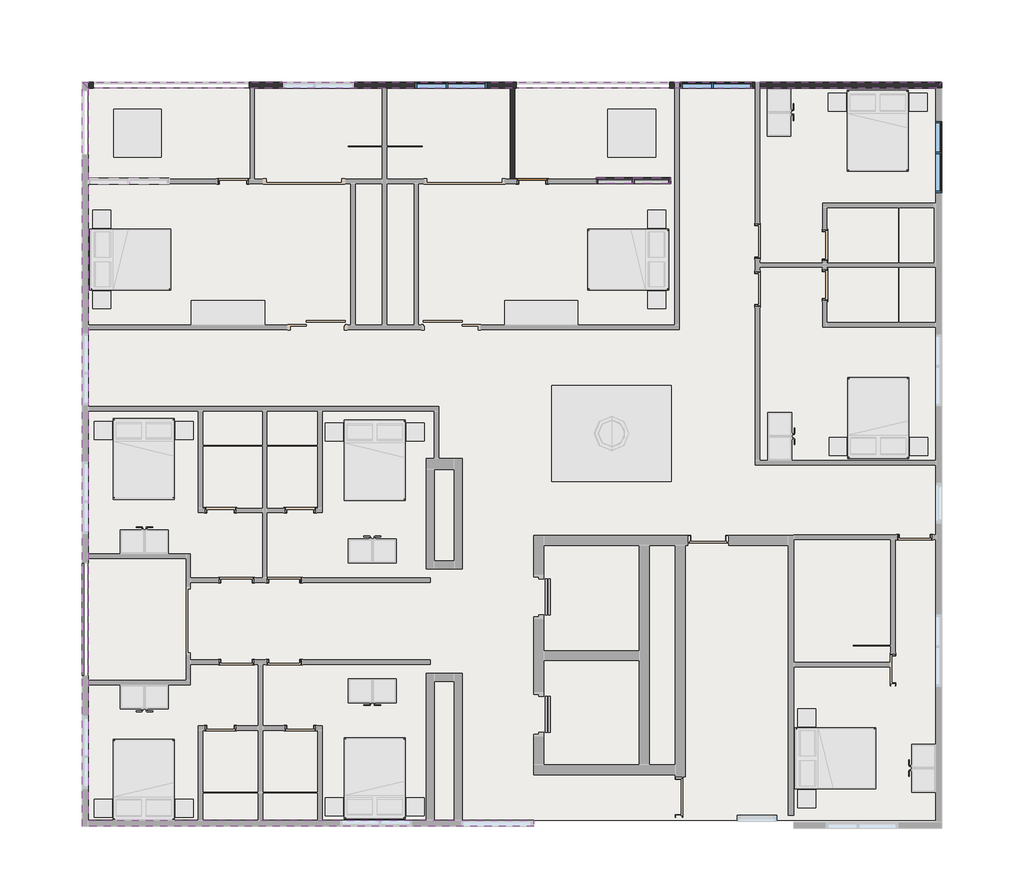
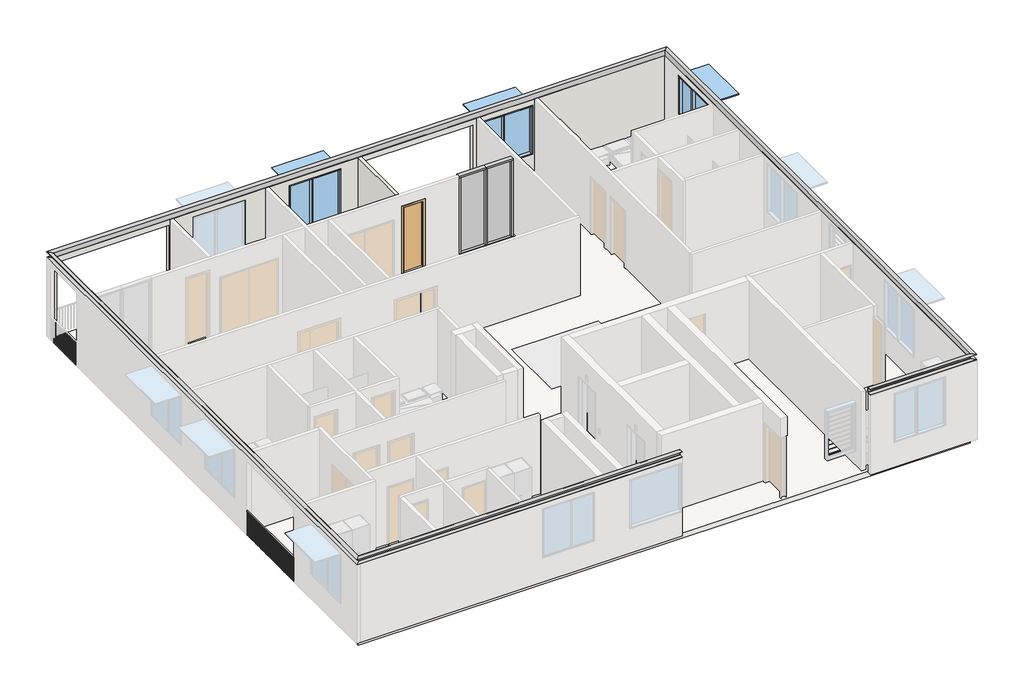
# One storey, part 3 of 4: 7 members, 3 windows, 2 plates, 2 proxies, 2 walls, 1 door, 1 railing, 1 slab.
"""IFC4 building model written with IfcOpenShell, lengths in millimetres."""

from ifc_helpers import new_model, si_unit, point, frame, frame_2d, origin, place, context, project, spatial, polyline, circle_curve, ellipse_curve, trimmed, segment, composite_curve, outline, extrude, faceted_brep, transform, mapped, element, save
from ifc_brep_helpers import plane_surface, revolved_surface, advanced_brep
from components import swing_metal_frame_single_dor1_05198c53, rectangular_mullion_50_x_150mm_32aaa733, rectangular_mullion_50_x_150mm_d11e3bb4, rectangular_mullion_50_x_150mm_39ecd5a2, system_panel_concept_glazed_bce8431f, window_bottom_hung_window_bottom_hung_09912109

model = new_model("IFC4")

# Units and contexts
model_context = context("Model", 3, world=origin())
ifc_project = project(units=[si_unit("LENGTHUNIT", "METRE", prefix="MILLI")], contexts=[model_context])

# Site, building, storey
site = spatial("IfcSite", under=ifc_project)
building = spatial("IfcBuilding", under=site)
storey = spatial("IfcBuildingStorey", under=building, Name="8階", Elevation=51600.0)

# Proxies
placement = place(None, origin())
element("IfcBuildingElementProxy", 1, Name="Slab Edge_PFC'", ObjectType="Slab Edge_PFC'", at=placement, inside=storey, context=model_context, shape_type="AdvancedBrep", body=[
    advanced_brep(
    [(2519.6057353, 18560.0, 54700.0), (2519.6057353, 18560.0, 54500.0), (2369.6057353, 18710.0, 54500.0), (2369.6057353, 18710.0, 54512.0), (2501.6057353, 18578.0, 54512.0), (2513.6057353, 18566.0, 54524.0), (2513.6057353, 18566.0, 54676.0), (2501.6057353, 18578.0, 54688.0), (2369.6057353, 18710.0, 54688.0), (2369.6057353, 18710.0, 54700.0), (2519.6057353, 189.0898177, 54700.0), (2519.6057353, 189.0898177, 54500.0), (2369.6057353, 39.0898177, 54500.0), (2369.6057353, 39.0898177, 54512.0), (2501.6057353, 171.0898177, 54512.0), (2513.6057353, 183.0898177, 54524.0), (2513.6057353, 183.0898177, 54676.0), (2501.6057353, 171.0898177, 54688.0), (2369.6057353, 39.0898177, 54688.0), (2369.6057353, 39.0898177, 54700.0), (13694.6062665, 189.0898177, 54500.0), (13694.6062665, 189.0898177, 54700.0), (13694.6062665, 39.0898177, 54700.0), (13694.6062665, 39.0898177, 54688.0), (13694.6062665, 171.0898177, 54688.0), (13694.6062665, 183.0898177, 54676.0), (13694.6062665, 183.0898177, 54524.0), (13694.6062665, 171.0898177, 54512.0), (13694.6062665, 39.0898177, 54512.0), (13694.6062665, 39.0898177, 54500.0)],
    [
        (0, 1),
        (1, 2),
        (2, 3),
        (3, 4),
        (4, 5, ellipse_curve(frame((2501.6057353, 18578.0, 54524.0), z_axis=(-0.7071067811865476, -0.7071067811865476, 0.0), x_axis=(0.7071067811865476, -0.7071067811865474, 0.0)), 16.9705627, 12.0)),
        (5, 6),
        (6, 7, ellipse_curve(frame((2501.6057353, 18578.0, 54676.0), z_axis=(-0.7071067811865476, -0.7071067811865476, 0.0), x_axis=(0.7071067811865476, -0.7071067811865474, 0.0)), 16.9705627, 12.0)),
        (7, 8),
        (8, 9),
        (9, 0),
        (0, 10),
        (10, 11),
        (11, 1),
        (11, 12),
        (12, 2),
        (12, 13),
        (13, 3),
        (13, 14),
        (14, 4),
        (14, 15, ellipse_curve(frame((2501.6057353, 171.0898177, 54524.0), z_axis=(0.7071067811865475, -0.7071067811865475, 0.0), x_axis=(-0.7071067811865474, -0.7071067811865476, 0.0)), 16.9705627, 12.0)),
        (15, 5),
        (15, 16),
        (16, 6),
        (16, 17, ellipse_curve(frame((2501.6057353, 171.0898177, 54676.0), z_axis=(0.7071067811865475, -0.7071067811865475, 0.0), x_axis=(-0.7071067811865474, -0.7071067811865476, 0.0)), 16.9705627, 12.0)),
        (17, 7),
        (17, 18),
        (18, 8),
        (18, 19),
        (19, 9),
        (19, 10),
        (20, 21),
        (21, 22),
        (22, 23),
        (23, 24),
        (24, 25, circle_curve(frame((13694.6062665, 171.0898177, 54676.0), z_axis=(-1.0, 0.0, 0.0), x_axis=(0.0, -1.0, 0.0)), 12.0)),
        (25, 26),
        (26, 27, circle_curve(frame((13694.6062665, 171.0898177, 54524.0), z_axis=(-1.0, 0.0, 0.0), x_axis=(0.0, -1.0, 0.0)), 12.0)),
        (27, 28),
        (28, 29),
        (29, 20),
        (10, 21),
        (20, 11),
        (29, 12),
        (28, 13),
        (27, 14),
        (26, 15),
        (25, 16),
        (24, 17),
        (23, 18),
        (22, 19),
    ],
    [
        plane_surface(frame((2519.6057353, 18560.0, 54700.0), z_axis=(0.7071067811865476, 0.7071067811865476, 0.0), x_axis=(-0.7071067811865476, 0.7071067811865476, 0.0))),
        plane_surface(frame((2519.6057353, 18560.0, 54700.0), z_axis=(1.0, 0.0, 0.0), x_axis=(0.0, -1.0, 0.0))),
        plane_surface(frame((2519.6057353, 18560.0, 54500.0), z_axis=(0.0, 0.0, -1.0), x_axis=(0.0, -1.0, 0.0))),
        plane_surface(frame((2369.6057353, 18710.0, 54500.0), z_axis=(-1.0, 0.0, 0.0), x_axis=(0.0, -1.0, 0.0))),
        plane_surface(frame((2369.6057353, 18710.0, 54512.0), z_axis=(0.0, 0.0, 1.0), x_axis=(0.0, -1.0, 0.0))),
        revolved_surface(polyline([(2489.6057353, 159.08981773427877, 54524.0), (2489.6057353, 18589.999999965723, 54524.0)]), (2501.6057353, 18560.0, 54524.0), (0.0, -1.0, 0.0)),
        plane_surface(frame((2513.6057353, 18566.0, 54524.0), z_axis=(-1.0, 0.0, 0.0), x_axis=(0.0, -1.0, 0.0))),
        revolved_surface(polyline([(2489.6057353, 159.08981773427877, 54676.0), (2489.6057353, 18589.999999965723, 54676.0)]), (2501.6057353, 18560.0, 54676.0), (0.0, -1.0, 0.0)),
        plane_surface(frame((2501.6057353, 18578.0, 54688.0), z_axis=(0.0, 0.0, -1.0), x_axis=(0.0, -1.0, 0.0))),
        plane_surface(frame((2369.6057353, 18710.0, 54688.0), z_axis=(-1.0, 0.0, 0.0), x_axis=(0.0, -1.0, 0.0))),
        plane_surface(frame((2369.6057353, 18710.0, 54700.0), z_axis=(0.0, 0.0, 1.0), x_axis=(0.0, -1.0, 0.0))),
        plane_surface(frame((13694.6062665, 189.0898177, 54450.0), z_axis=(1.0, 0.0, 0.0), x_axis=(0.0, 1.0, 0.0))),
        plane_surface(frame((2519.6057353, 189.0898177, 54700.0), z_axis=(0.0, 1.0, 0.0), x_axis=(1.0, 0.0, 0.0))),
        plane_surface(frame((2519.6057353, 189.0898177, 54500.0), z_axis=(0.0, 0.0, -1.0), x_axis=(1.0, 0.0, 0.0))),
        plane_surface(frame((2369.6057353, 39.0898177, 54500.0), z_axis=(0.0, -1.0, 0.0), x_axis=(1.0, 0.0, 0.0))),
        plane_surface(frame((2369.6057353, 39.0898177, 54512.0), z_axis=(0.0, 0.0, 1.0), x_axis=(1.0, 0.0, 0.0))),
        revolved_surface(polyline([(13694.6062665, 159.0898177, 54524.0), (2489.6057353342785, 159.0898177, 54524.0)]), (2519.6057353, 171.0898177, 54524.0), (1.0, 0.0, 0.0)),
        plane_surface(frame((2513.6057353, 183.0898177, 54524.0), z_axis=(0.0, -1.0, 0.0), x_axis=(1.0, 0.0, 0.0))),
        revolved_surface(polyline([(13694.6062665, 159.0898177, 54676.0), (2489.6057353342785, 159.0898177, 54676.0)]), (2519.6057353, 171.0898177, 54676.0), (1.0, 0.0, 0.0)),
        plane_surface(frame((2501.6057353, 171.0898177, 54688.0), z_axis=(0.0, 0.0, -1.0), x_axis=(1.0, 0.0, 0.0))),
        plane_surface(frame((2369.6057353, 39.0898177, 54688.0), z_axis=(0.0, -1.0, 0.0), x_axis=(1.0, 0.0, 0.0))),
        plane_surface(frame((2369.6057353, 39.0898177, 54700.0), z_axis=(0.0, 0.0, 1.0), x_axis=(1.0, 0.0, 0.0))),
    ],
    [
        (0, [[1, 2, 3, 4, 5, 6, 7, 8, 9, 10]]),
        (1, [[-1, 11, 12, 13]]),
        (2, [[-2, -13, 14, 15]]),
        (3, [[-3, -15, 16, 17]]),
        (4, [[-4, -17, 18, 19]]),
        (5, [[-5, -19, 20, 21]]),
        (6, [[-6, -21, 22, 23]]),
        (7, [[-7, -23, 24, 25]]),
        (8, [[-8, -25, 26, 27]]),
        (9, [[-9, -27, 28, 29]]),
        (10, [[-10, -29, 30, -11]]),
        (11, [[31, 32, 33, 34, 35, 36, 37, 38, 39, 40]]),
        (12, [[-12, 41, -31, 42]]),
        (13, [[-14, -42, -40, 43]]),
        (14, [[-16, -43, -39, 44]]),
        (15, [[-18, -44, -38, 45]]),
        (16, [[-20, -45, -37, 46]]),
        (17, [[-22, -46, -36, 47]]),
        (18, [[-24, -47, -35, 48]]),
        (19, [[-26, -48, -34, 49]]),
        (20, [[-28, -49, -33, 50]]),
        (21, [[-30, -50, -32, -41]]),
    ],
),
    advanced_brep(
    [(23783.6171203, 18560.0, 54500.0), (23783.6171203, 18560.0, 54700.0), (23933.6171203, 18710.0, 54700.0), (23933.6171203, 18710.0, 54688.0), (23801.6171203, 18578.0, 54688.0), (23789.6171203, 18566.0, 54676.0), (23789.6171203, 18566.0, 54524.0), (23801.6171203, 18578.0, 54512.0), (23933.6171203, 18710.0, 54512.0), (23933.6171203, 18710.0, 54500.0), (23783.6171203, 189.0898177, 54500.0), (23783.6171203, 189.0898177, 54700.0), (23933.6171203, 39.0898177, 54500.0), (23933.6171203, 39.0898177, 54512.0), (23801.6171203, 171.0898177, 54512.0), (23789.6171203, 183.0898177, 54524.0), (23789.6171203, 183.0898177, 54676.0), (23801.6171203, 171.0898177, 54688.0), (23933.6171203, 39.0898177, 54688.0), (23933.6171203, 39.0898177, 54700.0), (20219.6062665, 189.0898177, 54700.0), (20219.6062665, 189.0898177, 54500.0), (20219.6062665, 39.0898177, 54500.0), (20219.6062665, 39.0898177, 54512.0), (20219.6062665, 171.0898177, 54512.0), (20219.6062665, 183.0898177, 54524.0), (20219.6062665, 183.0898177, 54676.0), (20219.6062665, 171.0898177, 54688.0), (20219.6062665, 39.0898177, 54688.0), (20219.6062665, 39.0898177, 54700.0)],
    [
        (0, 1),
        (1, 2),
        (2, 3),
        (3, 4),
        (4, 5, ellipse_curve(frame((23801.6171203, 18578.0, 54676.0), z_axis=(0.7071067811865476, -0.7071067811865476, 0.0), x_axis=(0.7071067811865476, 0.7071067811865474, 0.0)), 16.9705627, 12.0)),
        (5, 6),
        (6, 7, ellipse_curve(frame((23801.6171203, 18578.0, 54524.0), z_axis=(0.7071067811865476, -0.7071067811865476, 0.0), x_axis=(0.7071067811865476, 0.7071067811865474, 0.0)), 16.9705627, 12.0)),
        (7, 8),
        (8, 9),
        (9, 0),
        (10, 11),
        (11, 1),
        (0, 10),
        (12, 10),
        (9, 12),
        (13, 12),
        (8, 13),
        (14, 13),
        (7, 14),
        (15, 14, ellipse_curve(frame((23801.6171203, 171.0898177, 54524.0), z_axis=(-0.7071067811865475, -0.7071067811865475, 0.0), x_axis=(-0.7071067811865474, 0.7071067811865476, 0.0)), 16.9705627, 12.0)),
        (6, 15),
        (16, 15),
        (5, 16),
        (17, 16, ellipse_curve(frame((23801.6171203, 171.0898177, 54676.0), z_axis=(-0.7071067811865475, -0.7071067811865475, 0.0), x_axis=(-0.7071067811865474, 0.7071067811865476, 0.0)), 16.9705627, 12.0)),
        (4, 17),
        (18, 17),
        (3, 18),
        (19, 18),
        (2, 19),
        (11, 19),
        (20, 21),
        (21, 22),
        (22, 23),
        (23, 24),
        (24, 25, circle_curve(frame((20219.6062665, 171.0898177, 54524.0), z_axis=(1.0, 0.0, 0.0), x_axis=(0.0, -1.0, 0.0)), 12.0)),
        (25, 26),
        (26, 27, circle_curve(frame((20219.6062665, 171.0898177, 54676.0), z_axis=(1.0, 0.0, 0.0), x_axis=(0.0, -1.0, 0.0)), 12.0)),
        (27, 28),
        (28, 29),
        (29, 20),
        (10, 21),
        (20, 11),
        (12, 22),
        (13, 23),
        (14, 24),
        (15, 25),
        (16, 26),
        (17, 27),
        (18, 28),
        (19, 29),
    ],
    [
        plane_surface(frame((23783.6171203, 18560.0, 54700.0), z_axis=(-0.7071067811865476, 0.7071067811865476, 0.0), x_axis=(-0.7071067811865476, -0.7071067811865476, 0.0))),
        plane_surface(frame((23783.6171203, 189.0898177, 54700.0), z_axis=(-1.0, 0.0, 0.0), x_axis=(0.0, 1.0, 0.0))),
        plane_surface(frame((23783.6171203, 189.0898177, 54500.0), z_axis=(0.0, 0.0, -1.0), x_axis=(0.0, 1.0, 0.0))),
        plane_surface(frame((23933.6171203, 39.0898177, 54500.0), z_axis=(1.0, 0.0, 0.0), x_axis=(0.0, 1.0, 0.0))),
        plane_surface(frame((23933.6171203, 39.0898177, 54512.0), z_axis=(0.0, 0.0, 1.0), x_axis=(0.0, 1.0, 0.0))),
        revolved_surface(polyline([(23813.6171203, 18589.999999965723, 54524.0), (23813.6171203, 159.0898177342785, 54524.0)]), (23801.6171203, 189.0898177, 54524.0), (0.0, 1.0, 0.0)),
        plane_surface(frame((23789.6171203, 183.0898177, 54524.0), z_axis=(1.0, 0.0, 0.0), x_axis=(0.0, 1.0, 0.0))),
        revolved_surface(polyline([(23813.6171203, 18589.999999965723, 54676.0), (23813.6171203, 159.0898177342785, 54676.0)]), (23801.6171203, 189.0898177, 54676.0), (0.0, 1.0, 0.0)),
        plane_surface(frame((23801.6171203, 171.0898177, 54688.0), z_axis=(0.0, 0.0, -1.0), x_axis=(0.0, 1.0, 0.0))),
        plane_surface(frame((23933.6171203, 39.0898177, 54688.0), z_axis=(1.0, 0.0, 0.0), x_axis=(0.0, 1.0, 0.0))),
        plane_surface(frame((23933.6171203, 39.0898177, 54700.0), z_axis=(0.0, 0.0, 1.0), x_axis=(0.0, 1.0, 0.0))),
        plane_surface(frame((20219.6062665, 189.0898177, 54450.0), z_axis=(-1.0, 0.0, 0.0), x_axis=(0.0, 1.0, 0.0))),
        plane_surface(frame((20219.6062665, 189.0898177, 54700.0), z_axis=(0.0, 1.0, 0.0), x_axis=(1.0, 0.0, 0.0))),
        plane_surface(frame((20219.6062665, 189.0898177, 54500.0), z_axis=(0.0, 0.0, -1.0), x_axis=(1.0, 0.0, 0.0))),
        plane_surface(frame((20219.6062665, 39.0898177, 54500.0), z_axis=(0.0, -1.0, 0.0), x_axis=(1.0, 0.0, 0.0))),
        plane_surface(frame((20219.6062665, 39.0898177, 54512.0), z_axis=(0.0, 0.0, 1.0), x_axis=(1.0, 0.0, 0.0))),
        revolved_surface(polyline([(23813.617120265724, 159.0898177, 54524.0), (20219.6062665, 159.0898177, 54524.0)]), (20219.6062665, 171.0898177, 54524.0), (1.0, 0.0, 0.0)),
        plane_surface(frame((20219.6062665, 183.0898177, 54524.0), z_axis=(0.0, -1.0, 0.0), x_axis=(1.0, 0.0, 0.0))),
        revolved_surface(polyline([(23813.617120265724, 159.0898177, 54676.0), (20219.6062665, 159.0898177, 54676.0)]), (20219.6062665, 171.0898177, 54676.0), (1.0, 0.0, 0.0)),
        plane_surface(frame((20219.6062665, 171.0898177, 54688.0), z_axis=(0.0, 0.0, -1.0), x_axis=(1.0, 0.0, 0.0))),
        plane_surface(frame((20219.6062665, 39.0898177, 54688.0), z_axis=(0.0, -1.0, 0.0), x_axis=(1.0, 0.0, 0.0))),
        plane_surface(frame((20219.6062665, 39.0898177, 54700.0), z_axis=(0.0, 0.0, 1.0), x_axis=(1.0, 0.0, 0.0))),
    ],
    [
        (0, [[1, 2, 3, 4, 5, 6, 7, 8, 9, 10]]),
        (1, [[11, 12, -1, 13]]),
        (2, [[14, -13, -10, 15]]),
        (3, [[16, -15, -9, 17]]),
        (4, [[18, -17, -8, 19]]),
        (5, [[20, -19, -7, 21]]),
        (6, [[22, -21, -6, 23]]),
        (7, [[24, -23, -5, 25]]),
        (8, [[26, -25, -4, 27]]),
        (9, [[28, -27, -3, 29]]),
        (10, [[30, -29, -2, -12]]),
        (11, [[31, 32, 33, 34, 35, 36, 37, 38, 39, 40]]),
        (12, [[-11, 41, -31, 42]]),
        (13, [[-14, 43, -32, -41]]),
        (14, [[-16, 44, -33, -43]]),
        (15, [[-18, 45, -34, -44]]),
        (16, [[-20, 46, -35, -45]]),
        (17, [[-22, 47, -36, -46]]),
        (18, [[-24, 48, -37, -47]]),
        (19, [[-26, 49, -38, -48]]),
        (20, [[-28, 50, -39, -49]]),
        (21, [[-30, -42, -40, -50]]),
    ],
),
])
element("IfcBuildingElementProxy", 2, Name="Slab Edge_PFC'", ObjectType="Slab Edge_PFC'", at=placement, inside=storey, context=model_context, shape_type="AdvancedBrep", body=[
    advanced_brep(
    [(23783.6171203, 18560.0, 54700.0), (23783.6171203, 18560.0, 54500.0), (23933.6171203, 18710.0, 54500.0), (23933.6171203, 18710.0, 54512.0), (23801.6171203, 18578.0, 54512.0), (23789.6171203, 18566.0, 54524.0), (23789.6171203, 18566.0, 54676.0), (23801.6171203, 18578.0, 54688.0), (23933.6171203, 18710.0, 54688.0), (23933.6171203, 18710.0, 54700.0), (2519.6057353, 18560.0, 54700.0), (2369.6057353, 18710.0, 54700.0), (2369.6057353, 18710.0, 54688.0), (2501.6057353, 18578.0, 54688.0), (2513.6057353, 18566.0, 54676.0), (2513.6057353, 18566.0, 54524.0), (2501.6057353, 18578.0, 54512.0), (2369.6057353, 18710.0, 54512.0), (2369.6057353, 18710.0, 54500.0), (2519.6057353, 18560.0, 54500.0)],
    [
        (0, 1),
        (1, 2),
        (2, 3),
        (3, 4),
        (4, 5, ellipse_curve(frame((23801.6171203, 18578.0, 54524.0), z_axis=(-0.7071067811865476, 0.7071067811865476, 0.0), x_axis=(-0.7071067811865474, -0.7071067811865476, 0.0)), 16.9705627, 12.0)),
        (5, 6),
        (6, 7, ellipse_curve(frame((23801.6171203, 18578.0, 54676.0), z_axis=(-0.7071067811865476, 0.7071067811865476, 0.0), x_axis=(-0.7071067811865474, -0.7071067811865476, 0.0)), 16.9705627, 12.0)),
        (7, 8),
        (8, 9),
        (9, 0),
        (10, 11),
        (11, 12),
        (12, 13),
        (13, 14, ellipse_curve(frame((2501.6057353, 18578.0, 54676.0), z_axis=(0.7071067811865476, 0.7071067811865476, 0.0), x_axis=(-0.7071067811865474, 0.7071067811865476, 0.0)), 16.9705627, 12.0)),
        (14, 15),
        (15, 16, ellipse_curve(frame((2501.6057353, 18578.0, 54524.0), z_axis=(0.7071067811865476, 0.7071067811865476, 0.0), x_axis=(-0.7071067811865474, 0.7071067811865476, 0.0)), 16.9705627, 12.0)),
        (16, 17),
        (17, 18),
        (18, 19),
        (19, 10),
        (0, 10),
        (19, 1),
        (18, 2),
        (17, 3),
        (16, 4),
        (15, 5),
        (14, 6),
        (13, 7),
        (12, 8),
        (11, 9),
    ],
    [
        plane_surface(frame((23783.6171203, 18560.0, 54700.0), z_axis=(0.7071067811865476, -0.7071067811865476, 0.0), x_axis=(0.7071067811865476, 0.7071067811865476, 0.0))),
        plane_surface(frame((2519.6057353, 18560.0, 54700.0), z_axis=(-0.7071067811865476, -0.7071067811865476, 0.0), x_axis=(0.7071067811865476, -0.7071067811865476, 0.0))),
        plane_surface(frame((23783.6171203, 18560.0, 54700.0), z_axis=(0.0, -1.0, 0.0), x_axis=(-1.0, 0.0, 0.0))),
        plane_surface(frame((23783.6171203, 18560.0, 54500.0), z_axis=(0.0, 0.0, -1.0), x_axis=(-1.0, 0.0, 0.0))),
        plane_surface(frame((23933.6171203, 18710.0, 54500.0), z_axis=(0.0, 1.0, 0.0), x_axis=(-1.0, 0.0, 0.0))),
        plane_surface(frame((23933.6171203, 18710.0, 54512.0), z_axis=(0.0, 0.0, 1.0), x_axis=(-1.0, 0.0, 0.0))),
        revolved_surface(polyline([(2489.6057353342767, 18590.0, 54524.0), (23813.617120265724, 18590.0, 54524.0)]), (23783.6171203, 18578.0, 54524.0), (-1.0, 0.0, 0.0)),
        plane_surface(frame((23789.6171203, 18566.0, 54524.0), z_axis=(0.0, 1.0, 0.0), x_axis=(-1.0, 0.0, 0.0))),
        revolved_surface(polyline([(2489.6057353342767, 18590.0, 54676.0), (23813.617120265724, 18590.0, 54676.0)]), (23783.6171203, 18578.0, 54676.0), (-1.0, 0.0, 0.0)),
        plane_surface(frame((23801.6171203, 18578.0, 54688.0), z_axis=(0.0, 0.0, -1.0), x_axis=(-1.0, 0.0, 0.0))),
        plane_surface(frame((23933.6171203, 18710.0, 54688.0), z_axis=(0.0, 1.0, 0.0), x_axis=(-1.0, 0.0, 0.0))),
        plane_surface(frame((23933.6171203, 18710.0, 54700.0), z_axis=(0.0, 0.0, 1.0), x_axis=(-1.0, 0.0, 0.0))),
    ],
    [
        (0, [[1, 2, 3, 4, 5, 6, 7, 8, 9, 10]]),
        (1, [[11, 12, 13, 14, 15, 16, 17, 18, 19, 20]]),
        (2, [[-1, 21, -20, 22]]),
        (3, [[-2, -22, -19, 23]]),
        (4, [[-3, -23, -18, 24]]),
        (5, [[-4, -24, -17, 25]]),
        (6, [[-5, -25, -16, 26]]),
        (7, [[-6, -26, -15, 27]]),
        (8, [[-7, -27, -14, 28]]),
        (9, [[-8, -28, -13, 29]]),
        (10, [[-9, -29, -12, 30]]),
        (11, [[-10, -30, -11, -21]]),
    ],
),
])

# Door
swing_metal_frame_single_dor1_shape = swing_metal_frame_single_dor1_05198c53(model_context)
element("IfcDoor", 3, ObjectType="Swing_Metal Frame_Single_DOR1 : 2040h x 720 (2110x820 STUD)", at=placement, inside=storey, context=model_context, shape_type="MappedRepresentation", body=[
    mapped(swing_metal_frame_single_dor1_shape, transform((13653.9954006, 16223.7821797, 51600.0), x_axis=(1.0, 0.0, 0.0), y_axis=(0.0, 1.0, 0.0), z_axis=(0.0, 0.0, 1.0))),
])

# Members
rectangular_mullion_50_x_150mm_shape = rectangular_mullion_50_x_150mm_32aaa733(model_context)
element("IfcMember", 4, ObjectType="Rectangular Mullion : 50 x 150mm", at=placement, inside=storey, context=model_context, shape_type="MappedRepresentation", body=[
    mapped(rectangular_mullion_50_x_150mm_shape, transform((17124.4454006, 16238.7821797, 51650.0), x_axis=(1.0, 0.0, 0.0), y_axis=(0.0, -1.0, 0.0), z_axis=(0.0, 0.0, -1.0))),
])
element("IfcMember", 5, ObjectType="Rectangular Mullion : 50 x 150mm", at=placement, inside=storey, context=model_context, shape_type="MappedRepresentation", body=[
    mapped(rectangular_mullion_50_x_150mm_shape, transform((15253.9954006, 16238.7821797, 54450.0), x_axis=(-1.0, 0.0, 0.0), y_axis=(0.0, -1.0, 0.0), z_axis=(0.0, 0.0, 1.0))),
])
rectangular_mullion_50_x_150mm_2_shape = rectangular_mullion_50_x_150mm_d11e3bb4(model_context)
element("IfcMember", 6, ObjectType="Rectangular Mullion : 50 x 150mm", at=placement, inside=storey, context=model_context, shape_type="MappedRepresentation", body=[
    mapped(rectangular_mullion_50_x_150mm_2_shape, transform((16189.2204006, 16238.7821797, 51650.0), x_axis=(1.0, 0.0, 0.0), y_axis=(0.0, -1.0, 0.0), z_axis=(0.0, 0.0, -1.0))),
])
rectangular_mullion_50_x_150mm_3_shape = rectangular_mullion_50_x_150mm_39ecd5a2(model_context)
element("IfcMember", 7, ObjectType="Rectangular Mullion : 50 x 150mm", at=placement, inside=storey, context=model_context, shape_type="MappedRepresentation", body=[
    mapped(rectangular_mullion_50_x_150mm_3_shape, transform((17124.4454006, 16238.7821797, 54500.0), x_axis=(0.0, 0.0, 1.0), y_axis=(0.0, -1.0, 0.0), z_axis=(1.0, 0.0, 0.0))),
])
element("IfcMember", 8, ObjectType="Rectangular Mullion : 50 x 150mm", at=placement, inside=storey, context=model_context, shape_type="MappedRepresentation", body=[
    mapped(rectangular_mullion_50_x_150mm_3_shape, transform((15253.9954006, 16238.7821797, 51600.0), x_axis=(0.0, 0.0, -1.0), y_axis=(0.0, -1.0, 0.0), z_axis=(-1.0, 0.0, 0.0))),
])
element("IfcMember", 9, ObjectType="Rectangular Mullion : 50 x 150mm", at=placement, inside=storey, context=model_context, shape_type="MappedRepresentation", body=[
    mapped(rectangular_mullion_50_x_150mm_3_shape, transform((16189.2204006, 16238.7821797, 54500.0), x_axis=(0.0, 0.0, 1.0), y_axis=(0.0, -1.0, 0.0), z_axis=(1.0, 0.0, 0.0))),
])
element("IfcMember", 10, ObjectType="Rectangular Mullion : 50 x 150mm", at=placement, inside=storey, context=model_context, shape_type="MappedRepresentation", body=[
    mapped(rectangular_mullion_50_x_150mm_3_shape, transform((16189.2204006, 16238.7821797, 51600.0), x_axis=(0.0, 0.0, -1.0), y_axis=(0.0, -1.0, 0.0), z_axis=(-1.0, 0.0, 0.0))),
])

# Plates
system_panel_concept_glazed_shape = system_panel_concept_glazed_bce8431f(model_context)
element("IfcPlate", 11, ObjectType="System Panel : Concept Glazed", at=placement, inside=storey, context=model_context, shape_type="MappedRepresentation", body=[
    mapped(system_panel_concept_glazed_shape, transform((15734.1079006, 16238.7821797, 51650.0), x_axis=(1.0, 0.0, 0.0), y_axis=(0.0, 1.0, 0.0), z_axis=(0.0, 0.0, 1.0))),
])
element("IfcPlate", 12, ObjectType="System Panel : Concept Glazed", at=placement, inside=storey, context=model_context, shape_type="MappedRepresentation", body=[
    mapped(system_panel_concept_glazed_shape, transform((16644.3329006, 16238.7821797, 51650.0), x_axis=(1.0, 0.0, 0.0), y_axis=(0.0, 1.0, 0.0), z_axis=(0.0, 0.0, 1.0))),
])

# Railing
element("IfcRailing", 13, ObjectType="900mm", at=placement, inside=storey, context=model_context, shape_type="SweptSolid", body=[
    extrude(outline(composite_curve([segment(trimmed(circle_curve(frame_2d((52480.0, 2379.6057353)), 20.0), [point((52480.0, 2399.6057353))], [point((52480.0, 2359.6057353))], False, "CARTESIAN"), True, "CONTINUOUS"), segment(trimmed(circle_curve(frame_2d((52480.0, 2379.6057353)), 20.0), [point((52480.0, 2359.6057353))], [point((52480.0, 2399.6057353))], False, "CARTESIAN"), True, "CONTINUOUS")], self_intersect=False)), frame((0.0, 3816.2680774, 0.0), z_axis=(0.0, 1.0, 0.0), x_axis=(0.0, 0.0, 1.0)), (0.0, 0.0, 1.0), 2834.048622),
    extrude(outline(polyline([(2384.6057353, 6611.2680774), (2374.6057353, 6611.2680774), (2374.6057353, 6621.2680774), (2384.6057353, 6621.2680774), (2384.6057353, 6611.2680774)])), frame((0.0, 0.0, 51600.0), z_axis=(0.0, 0.0, 1.0), x_axis=(1.0, 0.0, 0.0)), (0.0, 0.0, 1.0), 860.0),
    extrude(outline(polyline([(2384.6057353, 6511.2680774), (2374.6057353, 6511.2680774), (2374.6057353, 6521.2680774), (2384.6057353, 6521.2680774), (2384.6057353, 6511.2680774)])), frame((0.0, 0.0, 51600.0), z_axis=(0.0, 0.0, 1.0), x_axis=(1.0, 0.0, 0.0)), (0.0, 0.0, 1.0), 860.0),
    extrude(outline(polyline([(2384.6057353, 6411.2680774), (2374.6057353, 6411.2680774), (2374.6057353, 6421.2680774), (2384.6057353, 6421.2680774), (2384.6057353, 6411.2680774)])), frame((0.0, 0.0, 51600.0), z_axis=(0.0, 0.0, 1.0), x_axis=(1.0, 0.0, 0.0)), (0.0, 0.0, 1.0), 860.0),
    extrude(outline(polyline([(2384.6057353, 6311.2680774), (2374.6057353, 6311.2680774), (2374.6057353, 6321.2680774), (2384.6057353, 6321.2680774), (2384.6057353, 6311.2680774)])), frame((0.0, 0.0, 51600.0), z_axis=(0.0, 0.0, 1.0), x_axis=(1.0, 0.0, 0.0)), (0.0, 0.0, 1.0), 860.0),
    extrude(outline(polyline([(2384.6057353, 6211.2680774), (2374.6057353, 6211.2680774), (2374.6057353, 6221.2680774), (2384.6057353, 6221.2680774), (2384.6057353, 6211.2680774)])), frame((0.0, 0.0, 51600.0), z_axis=(0.0, 0.0, 1.0), x_axis=(1.0, 0.0, 0.0)), (0.0, 0.0, 1.0), 860.0),
    extrude(outline(polyline([(2384.6057353, 6111.2680774), (2374.6057353, 6111.2680774), (2374.6057353, 6121.2680774), (2384.6057353, 6121.2680774), (2384.6057353, 6111.2680774)])), frame((0.0, 0.0, 51600.0), z_axis=(0.0, 0.0, 1.0), x_axis=(1.0, 0.0, 0.0)), (0.0, 0.0, 1.0), 860.0),
    extrude(outline(polyline([(2384.6057353, 6011.2680774), (2374.6057353, 6011.2680774), (2374.6057353, 6021.2680774), (2384.6057353, 6021.2680774), (2384.6057353, 6011.2680774)])), frame((0.0, 0.0, 51600.0), z_axis=(0.0, 0.0, 1.0), x_axis=(1.0, 0.0, 0.0)), (0.0, 0.0, 1.0), 860.0),
    extrude(outline(polyline([(2384.6057353, 5911.2680774), (2374.6057353, 5911.2680774), (2374.6057353, 5921.2680774), (2384.6057353, 5921.2680774), (2384.6057353, 5911.2680774)])), frame((0.0, 0.0, 51600.0), z_axis=(0.0, 0.0, 1.0), x_axis=(1.0, 0.0, 0.0)), (0.0, 0.0, 1.0), 860.0),
    extrude(outline(polyline([(2384.6057353, 5811.2680774), (2374.6057353, 5811.2680774), (2374.6057353, 5821.2680774), (2384.6057353, 5821.2680774), (2384.6057353, 5811.2680774)])), frame((0.0, 0.0, 51600.0), z_axis=(0.0, 0.0, 1.0), x_axis=(1.0, 0.0, 0.0)), (0.0, 0.0, 1.0), 860.0),
    extrude(outline(polyline([(2384.6057353, 5711.2680774), (2374.6057353, 5711.2680774), (2374.6057353, 5721.2680774), (2384.6057353, 5721.2680774), (2384.6057353, 5711.2680774)])), frame((0.0, 0.0, 51600.0), z_axis=(0.0, 0.0, 1.0), x_axis=(1.0, 0.0, 0.0)), (0.0, 0.0, 1.0), 860.0),
    extrude(outline(polyline([(2384.6057353, 5611.2680774), (2374.6057353, 5611.2680774), (2374.6057353, 5621.2680774), (2384.6057353, 5621.2680774), (2384.6057353, 5611.2680774)])), frame((0.0, 0.0, 51600.0), z_axis=(0.0, 0.0, 1.0), x_axis=(1.0, 0.0, 0.0)), (0.0, 0.0, 1.0), 860.0),
    extrude(outline(polyline([(2384.6057353, 5511.2680774), (2374.6057353, 5511.2680774), (2374.6057353, 5521.2680774), (2384.6057353, 5521.2680774), (2384.6057353, 5511.2680774)])), frame((0.0, 0.0, 51600.0), z_axis=(0.0, 0.0, 1.0), x_axis=(1.0, 0.0, 0.0)), (0.0, 0.0, 1.0), 860.0),
    extrude(outline(polyline([(2384.6057353, 5411.2680774), (2374.6057353, 5411.2680774), (2374.6057353, 5421.2680774), (2384.6057353, 5421.2680774), (2384.6057353, 5411.2680774)])), frame((0.0, 0.0, 51600.0), z_axis=(0.0, 0.0, 1.0), x_axis=(1.0, 0.0, 0.0)), (0.0, 0.0, 1.0), 860.0),
    extrude(outline(polyline([(2384.6057353, 5311.2680774), (2374.6057353, 5311.2680774), (2374.6057353, 5321.2680774), (2384.6057353, 5321.2680774), (2384.6057353, 5311.2680774)])), frame((0.0, 0.0, 51600.0), z_axis=(0.0, 0.0, 1.0), x_axis=(1.0, 0.0, 0.0)), (0.0, 0.0, 1.0), 860.0),
    extrude(outline(polyline([(2384.6057353, 5211.2680774), (2374.6057353, 5211.2680774), (2374.6057353, 5221.2680774), (2384.6057353, 5221.2680774), (2384.6057353, 5211.2680774)])), frame((0.0, 0.0, 51600.0), z_axis=(0.0, 0.0, 1.0), x_axis=(1.0, 0.0, 0.0)), (0.0, 0.0, 1.0), 860.0),
    extrude(outline(polyline([(2384.6057353, 5111.2680774), (2374.6057353, 5111.2680774), (2374.6057353, 5121.2680774), (2384.6057353, 5121.2680774), (2384.6057353, 5111.2680774)])), frame((0.0, 0.0, 51600.0), z_axis=(0.0, 0.0, 1.0), x_axis=(1.0, 0.0, 0.0)), (0.0, 0.0, 1.0), 860.0),
    extrude(outline(polyline([(2384.6057353, 5011.2680774), (2374.6057353, 5011.2680774), (2374.6057353, 5021.2680774), (2384.6057353, 5021.2680774), (2384.6057353, 5011.2680774)])), frame((0.0, 0.0, 51600.0), z_axis=(0.0, 0.0, 1.0), x_axis=(1.0, 0.0, 0.0)), (0.0, 0.0, 1.0), 860.0),
    extrude(outline(polyline([(2384.6057353, 4911.2680774), (2374.6057353, 4911.2680774), (2374.6057353, 4921.2680774), (2384.6057353, 4921.2680774), (2384.6057353, 4911.2680774)])), frame((0.0, 0.0, 51600.0), z_axis=(0.0, 0.0, 1.0), x_axis=(1.0, 0.0, 0.0)), (0.0, 0.0, 1.0), 860.0),
    extrude(outline(polyline([(2384.6057353, 4811.2680774), (2374.6057353, 4811.2680774), (2374.6057353, 4821.2680774), (2384.6057353, 4821.2680774), (2384.6057353, 4811.2680774)])), frame((0.0, 0.0, 51600.0), z_axis=(0.0, 0.0, 1.0), x_axis=(1.0, 0.0, 0.0)), (0.0, 0.0, 1.0), 860.0),
    extrude(outline(polyline([(2384.6057353, 4711.2680774), (2374.6057353, 4711.2680774), (2374.6057353, 4721.2680774), (2384.6057353, 4721.2680774), (2384.6057353, 4711.2680774)])), frame((0.0, 0.0, 51600.0), z_axis=(0.0, 0.0, 1.0), x_axis=(1.0, 0.0, 0.0)), (0.0, 0.0, 1.0), 860.0),
    extrude(outline(polyline([(2384.6057353, 4611.2680774), (2374.6057353, 4611.2680774), (2374.6057353, 4621.2680774), (2384.6057353, 4621.2680774), (2384.6057353, 4611.2680774)])), frame((0.0, 0.0, 51600.0), z_axis=(0.0, 0.0, 1.0), x_axis=(1.0, 0.0, 0.0)), (0.0, 0.0, 1.0), 860.0),
    extrude(outline(polyline([(2384.6057353, 4511.2680774), (2374.6057353, 4511.2680774), (2374.6057353, 4521.2680774), (2384.6057353, 4521.2680774), (2384.6057353, 4511.2680774)])), frame((0.0, 0.0, 51600.0), z_axis=(0.0, 0.0, 1.0), x_axis=(1.0, 0.0, 0.0)), (0.0, 0.0, 1.0), 860.0),
    extrude(outline(polyline([(2384.6057353, 4411.2680774), (2374.6057353, 4411.2680774), (2374.6057353, 4421.2680774), (2384.6057353, 4421.2680774), (2384.6057353, 4411.2680774)])), frame((0.0, 0.0, 51600.0), z_axis=(0.0, 0.0, 1.0), x_axis=(1.0, 0.0, 0.0)), (0.0, 0.0, 1.0), 860.0),
    extrude(outline(polyline([(2384.6057353, 4311.2680774), (2374.6057353, 4311.2680774), (2374.6057353, 4321.2680774), (2384.6057353, 4321.2680774), (2384.6057353, 4311.2680774)])), frame((0.0, 0.0, 51600.0), z_axis=(0.0, 0.0, 1.0), x_axis=(1.0, 0.0, 0.0)), (0.0, 0.0, 1.0), 860.0),
    extrude(outline(polyline([(2384.6057353, 4211.2680774), (2374.6057353, 4211.2680774), (2374.6057353, 4221.2680774), (2384.6057353, 4221.2680774), (2384.6057353, 4211.2680774)])), frame((0.0, 0.0, 51600.0), z_axis=(0.0, 0.0, 1.0), x_axis=(1.0, 0.0, 0.0)), (0.0, 0.0, 1.0), 860.0),
    extrude(outline(polyline([(2384.6057353, 4111.2680774), (2374.6057353, 4111.2680774), (2374.6057353, 4121.2680774), (2384.6057353, 4121.2680774), (2384.6057353, 4111.2680774)])), frame((0.0, 0.0, 51600.0), z_axis=(0.0, 0.0, 1.0), x_axis=(1.0, 0.0, 0.0)), (0.0, 0.0, 1.0), 860.0),
    extrude(outline(polyline([(2384.6057353, 4011.2680774), (2374.6057353, 4011.2680774), (2374.6057353, 4021.2680774), (2384.6057353, 4021.2680774), (2384.6057353, 4011.2680774)])), frame((0.0, 0.0, 51600.0), z_axis=(0.0, 0.0, 1.0), x_axis=(1.0, 0.0, 0.0)), (0.0, 0.0, 1.0), 860.0),
    extrude(outline(polyline([(2384.6057353, 3911.2680774), (2374.6057353, 3911.2680774), (2374.6057353, 3921.2680774), (2384.6057353, 3921.2680774), (2384.6057353, 3911.2680774)])), frame((0.0, 0.0, 51600.0), z_axis=(0.0, 0.0, 1.0), x_axis=(1.0, 0.0, 0.0)), (0.0, 0.0, 1.0), 860.0),
    extrude(outline(polyline([(2384.6057353, 6635.3166994), (2374.6057353, 6635.3166994), (2374.6057353, 6645.3166994), (2384.6057353, 6645.3166994), (2384.6057353, 6635.3166994)])), frame((0.0, 0.0, 51600.0), z_axis=(0.0, 0.0, 1.0), x_axis=(1.0, 0.0, 0.0)), (0.0, 0.0, 1.0), 860.0),
    extrude(outline(polyline([(2384.6057353, 3821.2680774), (2374.6057353, 3821.2680774), (2374.6057353, 3831.2680774), (2384.6057353, 3831.2680774), (2384.6057353, 3821.2680774)])), frame((0.0, 0.0, 51600.0), z_axis=(0.0, 0.0, 1.0), x_axis=(1.0, 0.0, 0.0)), (0.0, 0.0, 1.0), 860.0),
])

# Slab
element("IfcSlab", 14, ObjectType="Concept Floor_200mm", at=placement, inside=storey, context=model_context, shape_type="Brep", body=[
    faceted_brep([(2519.6057353, 18560.0, 51400.0), (23783.6171203, 18560.0, 51400.0), (23783.6171203, 189.0898177, 51400.0), (20219.6062665, 189.0898177, 51400.0), (13694.6062665, 189.0898177, 51400.0), (2519.6057353, 189.0898177, 51400.0), (2519.6057353, 18560.0, 51600.0), (2519.6057353, 189.0898177, 51600.0), (13694.6062665, 189.0898177, 51600.0), (20219.6062665, 189.0898177, 51600.0), (23783.6171203, 189.0898177, 51600.0), (23783.6171203, 18560.0, 51600.0)], [[[0, 1, 2, 3, 4, 5]], [[6, 7, 8, 9, 10, 11]], [[1, 0, 6, 11]], [[5, 4, 3, 2, 10, 9, 8, 7]], [[0, 5, 7, 6]], [[2, 1, 11, 10]]]),
])

# Walls
element("IfcWall", 15, ObjectType="Whte Paint Finish", at=placement, inside=storey, context=model_context, shape_type="Brep", body=[
    faceted_brep([(2519.6057353, 18560.0, 54500.0), (6574.6645991, 18560.0, 54500.0), (6684.6645991, 18560.0, 54500.0), (9894.6062665, 18560.0, 54500.0), (10004.6062665, 18560.0, 54500.0), (13107.1904782, 18560.0, 54500.0), (13217.1904782, 18560.0, 54500.0), (23773.6171203, 18560.0, 54500.0), (23923.6171203, 18560.0, 54500.0), (23923.6171203, 18710.0, 54500.0), (2519.6057353, 18710.0, 54500.0), (2639.6057353, 18710.0, 54300.0), (6554.6645991, 18710.0, 54300.0), (6554.6645991, 18560.0, 54300.0), (2639.6057353, 18560.0, 54300.0), (6554.6645991, 18710.0, 51600.0), (6554.6645991, 18560.0, 51600.0), (2639.6057353, 18710.0, 51600.0), (2639.6057353, 18560.0, 51600.0), (10717.1904782, 18560.0, 52500.0), (12517.1904782, 18560.0, 52500.0), (12517.1904782, 18710.0, 52500.0), (10717.1904782, 18710.0, 52500.0), (12517.1904782, 18560.0, 54300.0), (12517.1904782, 18710.0, 54300.0), (10717.1904782, 18560.0, 54300.0), (10717.1904782, 18710.0, 54300.0), (7389.6645991, 18560.0, 52500.0), (9189.6645991, 18560.0, 52500.0), (9189.6645991, 18710.0, 52500.0), (7389.6645991, 18710.0, 52500.0), (9189.6645991, 18560.0, 54300.0), (9189.6645991, 18710.0, 54300.0), (7389.6645991, 18560.0, 54300.0), (7389.6645991, 18710.0, 54300.0), (17376.7204006, 18560.0, 52500.0), (19176.7204006, 18560.0, 52500.0), (19176.7204006, 18710.0, 52500.0), (17376.7204006, 18710.0, 52500.0), (19176.7204006, 18560.0, 54300.0), (19176.7204006, 18710.0, 54300.0), (17376.7204006, 18560.0, 54300.0), (17376.7204006, 18710.0, 54300.0), (13253.9954006, 18710.0, 54300.0), (17099.4454006, 18710.0, 54300.0), (17099.4454006, 18560.0, 54300.0), (13253.9954006, 18560.0, 54300.0), (17099.4454006, 18710.0, 51600.0), (17099.4454006, 18560.0, 51600.0), (13253.9954006, 18710.0, 51600.0), (13253.9954006, 18560.0, 51600.0), (23773.6171203, 18560.0, 51600.0), (23923.6171203, 18560.0, 51600.0), (2519.6057353, 18560.0, 51600.0), (6574.6645991, 18560.0, 51600.0), (6684.6645991, 18560.0, 51600.0), (9894.6062665, 18560.0, 51600.0), (10004.6062665, 18560.0, 51600.0), (13107.1904782, 18560.0, 51600.0), (13217.1904782, 18560.0, 51600.0), (23923.6171203, 18710.0, 51600.0), (2519.6057353, 18710.0, 51600.0)], [[[0, 1, 2, 3, 4, 5, 6, 7, 8, 9, 10]], [[11, 12, 13, 14]], [[12, 15, 16, 13]], [[17, 11, 14, 18]], [[19, 20, 21, 22]], [[20, 23, 24, 21]], [[23, 25, 26, 24]], [[25, 19, 22, 26]], [[27, 28, 29, 30]], [[28, 31, 32, 29]], [[31, 33, 34, 32]], [[33, 27, 30, 34]], [[35, 36, 37, 38]], [[36, 39, 40, 37]], [[39, 41, 42, 40]], [[41, 35, 38, 42]], [[43, 44, 45, 46]], [[44, 47, 48, 45]], [[49, 43, 46, 50]], [[45, 48, 51, 52, 8, 7, 6, 5, 4, 3, 2, 1, 0, 53, 18, 14, 13, 16, 54, 55, 56, 57, 58, 59, 50, 46], [19, 25, 23, 20], [27, 33, 31, 28], [35, 41, 39, 36]], [[60, 47, 44, 43, 49, 15, 12, 11, 17, 61, 10, 9], [22, 21, 24, 26], [30, 29, 32, 34], [38, 37, 40, 42]], [[18, 53, 61, 17]], [[52, 51, 48, 47, 60]], [[50, 59, 58, 57, 56, 55, 54, 16, 15, 49]], [[53, 0, 10, 61]], [[8, 52, 60, 9]]]),
])
element("IfcWall", 16, ObjectType="Brickwork_Single_110mm", at=placement, inside=storey, context=model_context, shape_type="SweptSolid", body=[
    extrude(outline(polyline([(13107.1904782, 16278.7821797), (13107.1904782, 18560.0), (13217.1904782, 18560.0), (13217.1904782, 16278.7821797), (13107.1904782, 16278.7821797)])), frame((0.0, 0.0, 51600.0), z_axis=(0.0, 0.0, 1.0), x_axis=(1.0, 0.0, 0.0)), (0.0, 0.0, 1.0), 2900.0),
])

# Windows
window_bottom_hung_window_bottom_hung_shape = window_bottom_hung_window_bottom_hung_09912109(model_context)
element("IfcWindow", 17, ObjectType="Window_Bottom Hung : Window_Bottom Hung", at=placement, inside=storey, context=model_context, shape_type="MappedRepresentation", body=[
    mapped(window_bottom_hung_window_bottom_hung_shape, transform((11617.1904782, 18635.0, 51500.0), x_axis=(1.0, 0.0, 0.0), y_axis=(0.0, 1.0, 0.0), z_axis=(0.0, 0.0, 1.0))),
])
element("IfcWindow", 18, ObjectType="Window_Bottom Hung : Window_Bottom Hung", at=placement, inside=storey, context=model_context, shape_type="MappedRepresentation", body=[
    mapped(window_bottom_hung_window_bottom_hung_shape, transform((18276.7204006, 18635.0, 51500.0), x_axis=(1.0, 0.0, 0.0), y_axis=(0.0, 1.0, 0.0), z_axis=(0.0, 0.0, 1.0))),
])
element("IfcWindow", 19, ObjectType="Window_Bottom Hung : Window_Bottom Hung", at=placement, inside=storey, context=model_context, shape_type="MappedRepresentation", body=[
    mapped(window_bottom_hung_window_bottom_hung_shape, transform((23848.6171203, 16835.0, 51500.0), x_axis=(0.0, -1.0, 0.0), y_axis=(1.0, 0.0, 0.0), z_axis=(0.0, 0.0, 1.0))),
])

save(model, "model.ifc")
